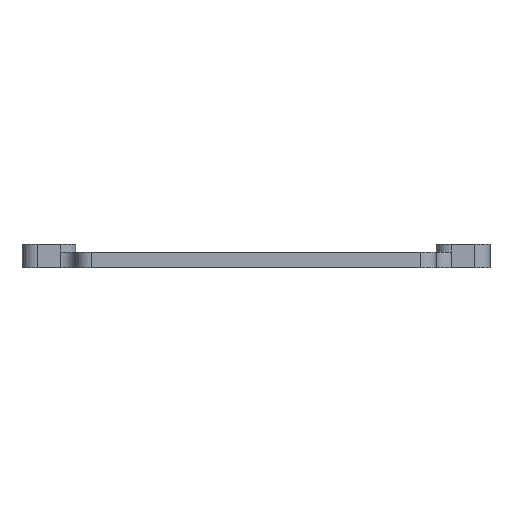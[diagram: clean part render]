
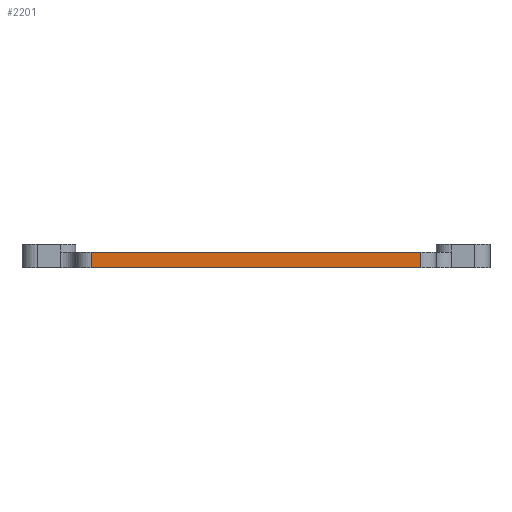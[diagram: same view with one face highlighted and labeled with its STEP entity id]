
A CAD part, front view. The second image highlights one B-rep face of the part: STEP entity #2201.
In plain terms, the highlighted planar face has unit normal (0, -1, 0).
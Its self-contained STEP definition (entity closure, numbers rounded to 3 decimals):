
#22 = LINE ( 'NONE', #992, #1560 ) ;
#42 = CARTESIAN_POINT ( 'NONE',  ( 33.405, -37.863, 2. ) ) ;
#61 = LINE ( 'NONE', #2282, #1358 ) ;
#304 = PLANE ( 'NONE',  #1080 ) ;
#315 = VERTEX_POINT ( 'NONE', #3241 ) ;
#328 = CARTESIAN_POINT ( 'NONE',  ( -18.595, -37.863, 3. ) ) ;
#419 = EDGE_CURVE ( 'NONE', #502, #3135, #2353, .T. ) ;
#427 = EDGE_CURVE ( 'NONE', #315, #502, #61, .T. ) ;
#434 = EDGE_CURVE ( 'NONE', #1362, #315, #3170, .T. ) ;
#443 = EDGE_CURVE ( 'NONE', #1362, #3135, #22, .T. ) ;
#453 = ORIENTED_EDGE ( 'NONE', *, *, #427, .T. ) ;
#502 = VERTEX_POINT ( 'NONE', #1218 ) ;
#581 = ORIENTED_EDGE ( 'NONE', *, *, #443, .F. ) ;
#837 = DIRECTION ( 'NONE',  ( 0., 1., 0. ) ) ;
#849 = DIRECTION ( 'NONE',  ( 0., 0., 1. ) ) ;
#939 = DIRECTION ( 'NONE',  ( 1., 0., 0. ) ) ;
#955 = DIRECTION ( 'NONE',  ( 1., 0., 0. ) ) ;
#992 = CARTESIAN_POINT ( 'NONE',  ( -11.595, -37.863, 2. ) ) ;
#1079 = DIRECTION ( 'NONE',  ( 0., 0., -1. ) ) ;
#1080 = AXIS2_PLACEMENT_3D ( 'NONE', #328, #837, #849 ) ;
#1218 = CARTESIAN_POINT ( 'NONE',  ( 33.405, -37.863, 0. ) ) ;
#1238 = ORIENTED_EDGE ( 'NONE', *, *, #419, .T. ) ;
#1358 = VECTOR ( 'NONE', #939, 1000. ) ;
#1362 = VERTEX_POINT ( 'NONE', #2684 ) ;
#1560 = VECTOR ( 'NONE', #955, 1000. ) ;
#1589 = DIRECTION ( 'NONE',  ( 0., 0., 1. ) ) ;
#2053 = CARTESIAN_POINT ( 'NONE',  ( 33.405, -37.863, 3. ) ) ;
#2068 = FACE_OUTER_BOUND ( 'NONE', #2777, .T. ) ;
#2201 = ADVANCED_FACE ( 'NONE', ( #2068 ), #304, .F. ) ;
#2253 = CARTESIAN_POINT ( 'NONE',  ( -9.595, -37.863, 3. ) ) ;
#2282 = CARTESIAN_POINT ( 'NONE',  ( -18.595, -37.863, 0. ) ) ;
#2353 = LINE ( 'NONE', #2053, #3306 ) ;
#2624 = VECTOR ( 'NONE', #1079, 1000. ) ;
#2684 = CARTESIAN_POINT ( 'NONE',  ( -9.595, -37.863, 2. ) ) ;
#2777 = EDGE_LOOP ( 'NONE', ( #581, #2782, #453, #1238 ) ) ;
#2782 = ORIENTED_EDGE ( 'NONE', *, *, #434, .T. ) ;
#3135 = VERTEX_POINT ( 'NONE', #42 ) ;
#3170 = LINE ( 'NONE', #2253, #2624 ) ;
#3241 = CARTESIAN_POINT ( 'NONE',  ( -9.595, -37.863, 0. ) ) ;
#3306 = VECTOR ( 'NONE', #1589, 1000. ) ;
